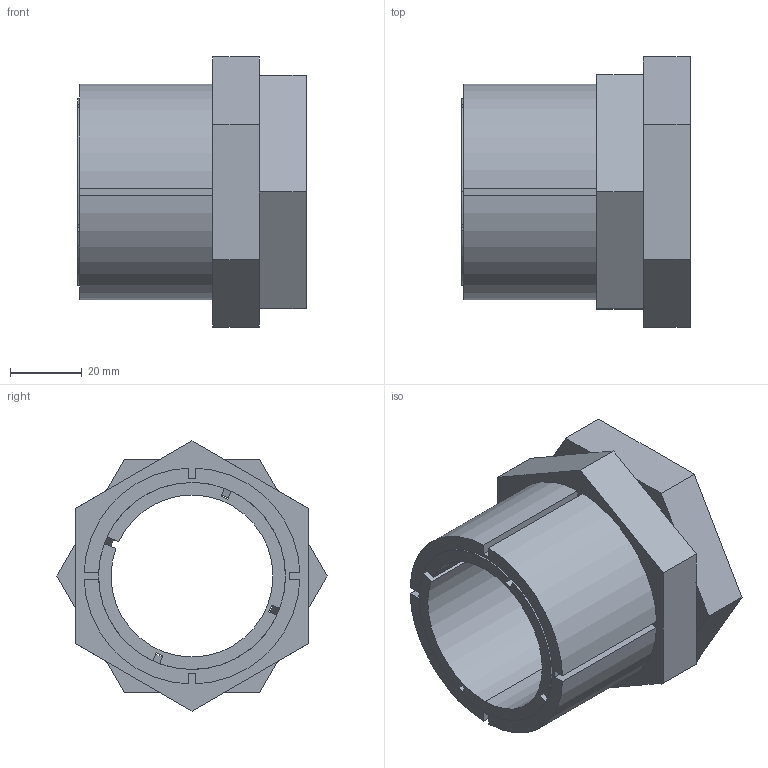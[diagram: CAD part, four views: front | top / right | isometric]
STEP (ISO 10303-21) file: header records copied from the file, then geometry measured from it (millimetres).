
FILE_DESCRIPTION (( 'STEP AP203' ), '1' );
FILE_NAME ('KBS 59 - 45 x 60.STEP', '2015-07-07T21:10:05', ( '' ), ( '' ), 'SwSTEP 2.0', 'SolidWorks 2010', '' );
FILE_SCHEMA (( 'CONFIG_CONTROL_DESIGN' ));
Length unit declared in the file: millimetre
Products named in the file (1): KBS 59 - 45 x 60
Bounding box: 63.5 x 75.06 x 75.06 mm (x, y, z)
Volume: 97221.1 mm3; surface area: 49886.7 mm2
Topology: 3 solids, 3 shells, 78 faces, 204 edges, 132 vertices
Faces by surface type: plane 56, cylinder 14, cone 8
Entity records: 2469 total; most frequent: CARTESIAN_POINT 451, ORIENTED_EDGE 408, DIRECTION 396, EDGE_CURVE 204, LINE 150, VECTOR 150, VERTEX_POINT 132, AXIS2_PLACEMENT_3D 123
